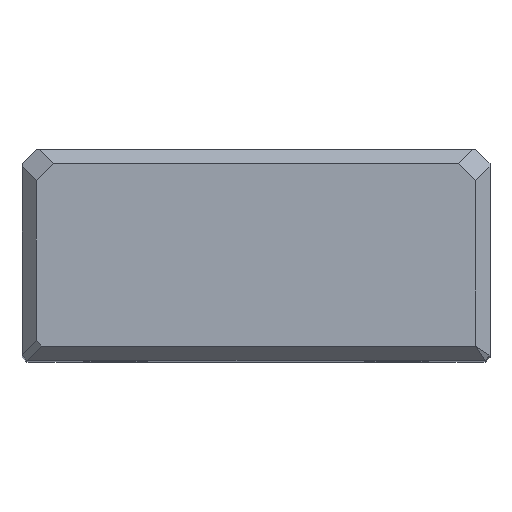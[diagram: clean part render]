
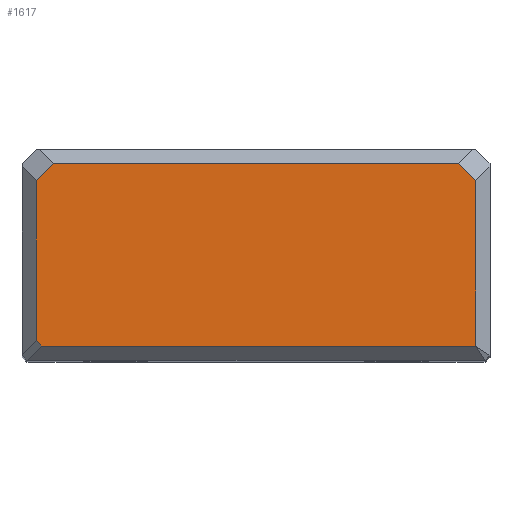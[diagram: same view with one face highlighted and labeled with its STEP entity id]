
A CAD part, top view. The second image highlights one B-rep face of the part: STEP entity #1617.
In plain terms, the highlighted planar face has unit normal (0, 0, 1).
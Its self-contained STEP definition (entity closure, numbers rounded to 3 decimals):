
#173=VERTEX_POINT(' ',#174);
#174=CARTESIAN_POINT('',(47.,-42.,0.));
#175=VERTEX_POINT(' ',#176);
#176=CARTESIAN_POINT('',(-45.775,-42.,0.));
#183=VERTEX_POINT(' ',#184);
#184=CARTESIAN_POINT('',(-47.,-40.775,0.));
#205=VERTEX_POINT(' ',#206);
#206=CARTESIAN_POINT('',(47.,-6.674,0.));
#207=VERTEX_POINT(' ',#208);
#208=CARTESIAN_POINT('',(-43.326,-3.,0.));
#209=VERTEX_POINT(' ',#210);
#210=CARTESIAN_POINT('',(-47.,-6.674,0.));
#211=VERTEX_POINT(' ',#212);
#212=CARTESIAN_POINT('',(43.326,-3.,0.));
#642=LINE('',#643,#644);
#643=CARTESIAN_POINT('',(63.971,-42.,0.));
#644=VECTOR('',#645,1.);
#645=DIRECTION('',(-1.,0.,0.));
#646=EDGE_CURVE(' ',#173,#175,#642,.T.);
#657=LINE('',#658,#659);
#658=CARTESIAN_POINT('',(-43.888,-43.888,0.));
#659=VECTOR('',#660,1.);
#660=DIRECTION('',(0.707,-0.707,0.));
#661=EDGE_CURVE(' ',#175,#183,#657,.F.);
#749=LINE('',#750,#751);
#750=CARTESIAN_POINT('',(47.,16.971,0.));
#751=VECTOR('',#752,1.);
#752=DIRECTION('',(0.,-1.,0.));
#753=EDGE_CURVE(' ',#205,#173,#749,.T.);
#759=LINE('',#760,#761);
#760=CARTESIAN_POINT('',(-20.163,20.163,0.));
#761=VECTOR('',#762,1.);
#762=DIRECTION('',(-0.707,-0.707,0.));
#763=EDGE_CURVE(' ',#209,#207,#759,.F.);
#764=LINE('',#765,#766);
#765=CARTESIAN_POINT('',(-47.,-58.971,0.));
#766=VECTOR('',#767,1.);
#767=DIRECTION('',(0.,1.,0.));
#768=EDGE_CURVE(' ',#183,#209,#764,.T.);
#769=LINE('',#770,#771);
#770=CARTESIAN_POINT('',(20.163,20.163,0.));
#771=VECTOR('',#772,1.);
#772=DIRECTION('',(-0.707,0.707,0.));
#773=EDGE_CURVE(' ',#211,#205,#769,.F.);
#774=LINE('',#775,#776);
#775=CARTESIAN_POINT('',(-63.971,-3.,0.));
#776=VECTOR('',#777,1.);
#777=DIRECTION('',(1.,0.,0.));
#778=EDGE_CURVE(' ',#207,#211,#774,.T.);
#1603=ORIENTED_EDGE('',*,*,#763,.F.);
#1604=ORIENTED_EDGE('',*,*,#768,.F.);
#1605=ORIENTED_EDGE('',*,*,#661,.F.);
#1606=ORIENTED_EDGE('',*,*,#646,.F.);
#1607=ORIENTED_EDGE('',*,*,#753,.F.);
#1608=ORIENTED_EDGE('',*,*,#773,.F.);
#1609=ORIENTED_EDGE('',*,*,#778,.F.);
#1610=EDGE_LOOP('',(#1603,#1604,#1605,#1606,#1607,#1608,#1609));
#1611=FACE_OUTER_BOUND('',#1610,.T.);
#1612=PLANE('',#1613);
#1613=AXIS2_PLACEMENT_3D('',#1614,#1615,#1616);
#1614=CARTESIAN_POINT('',(50.,0.,0.));
#1615=DIRECTION('',(0.,0.,1.));
#1616=DIRECTION('',(-1.,0.,0.));
#1617=ADVANCED_FACE('',(#1611),#1612,.T.);
